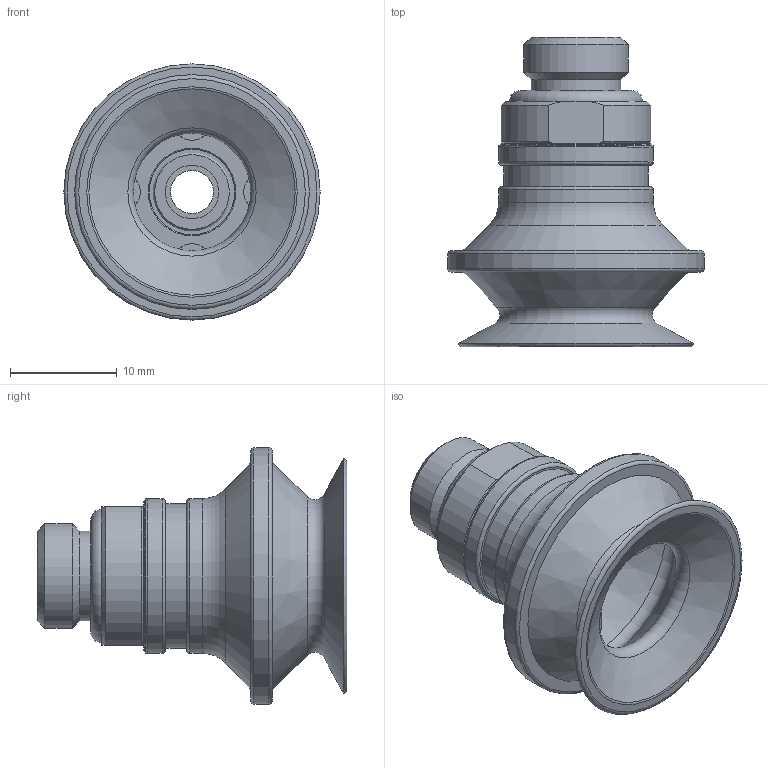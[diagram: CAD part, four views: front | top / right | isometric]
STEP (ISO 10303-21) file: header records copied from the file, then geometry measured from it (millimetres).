
FILE_DESCRIPTION (( 'STEP AP214' ), '1' );
FILE_NAME ('PSB20-G18MS.STEP', '2025-09-25T14:16:59', ( '' ), ( '' ), 'SwSTEP 2.0', 'SolidWorks 2025', '' );
FILE_SCHEMA (( 'AUTOMOTIVE_DESIGN' ));
Length unit declared in the file: inch
Products named in the file (5): PSB20-G18MS; PSB20; 130.250-2; 401.002 O-RING
Assembly tree (4 placements, depth 3):
  PSB20-G18MS
    PSB20
    130.250-2
      130.250-2
      401.002 O-RING
Bounding box: 24 x 29 x 24 mm (x, y, z)
Volume: 3058.7 mm3; surface area: 4505.6 mm2
Topology: 4 solids, 4 shells, 98 faces, 206 edges, 129 vertices
Faces by surface type: plane 39, cylinder 24, torus 18, cone 17
Full cylindrical faces by diameter (mm): 4 x1, 5 x2, 6 x3, 6.5 x1, 7 x1, 8.2 x1, 8.4 x1, 9.5 x1, 9.8 x1, 9.915 x1, 12.7 x1, 13.535 x1, 14.5 x2, 24 x1
Entity records: 2548 total; most frequent: CARTESIAN_POINT 480, DIRECTION 422, ORIENTED_EDGE 302, AXIS2_PLACEMENT_3D 193, EDGE_LOOP 166, EDGE_CURVE 151, FACE_OUTER_BOUND 132, VERTEX_POINT 123
